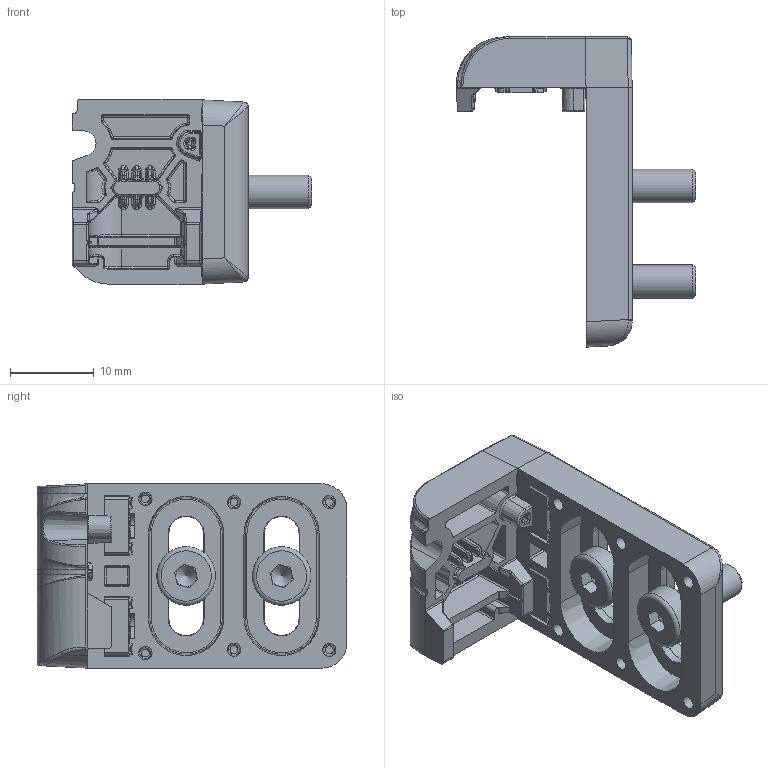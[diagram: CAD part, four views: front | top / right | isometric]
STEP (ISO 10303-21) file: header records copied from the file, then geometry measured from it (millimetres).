
FILE_DESCRIPTION(/* description */ (''),/* implementation_level */ '2;1');
FILE_NAME(/* name */ 'DSD-0661.stp',/* time_stamp */ '2015-12-21T10:56:23+01:00',/* author */ (''),/* organization */ (''),/* preprocessor_version */ 'ST-DEVELOPER v16',/* originating_system */ 'SIEMENS PLM Software NX 10.0',/* authorisation */ '');
FILE_SCHEMA (('AUTOMOTIVE_DESIGN { 1 0 10303 214 3 1 1 1 }'));
Length unit declared in the file: millimetre
Products named in the file (1): AP008238_01
Bounding box: 28.6 x 37 x 22 mm (x, y, z)
Surface area: 5578.3 mm2 (no closed solid volume)
Topology: 0 solids, 15 shells, 728 faces, 1943 edges, 1168 vertices
Faces by surface type: plane 279, cylinder 227, bspline 106, cone 52, sphere 35, torus 29
Full cylindrical faces by diameter (mm): 2.95 x2, 4 x2, 5.5 x2, 7 x2
Entity records: 23701 total; most frequent: CARTESIAN_POINT 6395, DIRECTION 3666, ORIENTED_EDGE 3411, EDGE_CURVE 1834, AXIS2_PLACEMENT_3D 1361, VERTEX_POINT 1145, LINE 944, VECTOR 944
